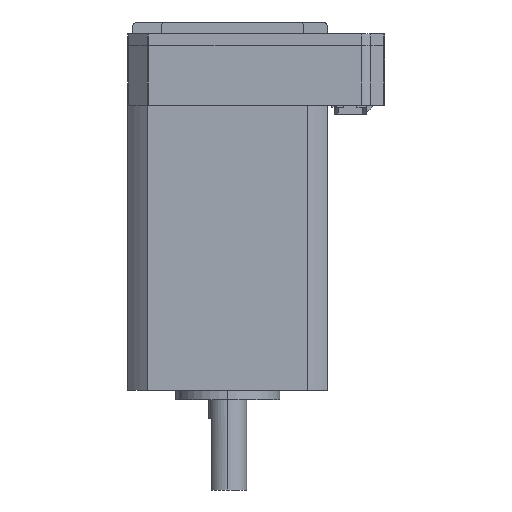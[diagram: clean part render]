
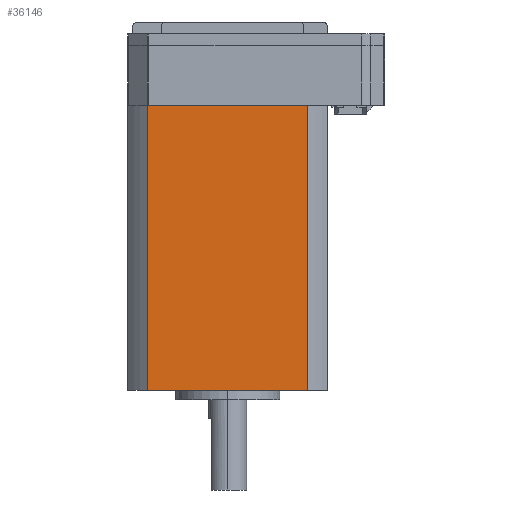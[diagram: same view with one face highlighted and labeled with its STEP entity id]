
A CAD part, left-side view. The second image highlights one B-rep face of the part: STEP entity #36146.
In plain terms, the highlighted planar face has unit normal (-1, 0, 0) as drawn and (1, 0, 0) by its records, which use the part's own axes.
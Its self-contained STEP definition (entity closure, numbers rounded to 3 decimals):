
#3176 = PLANE ( 'NONE',  #42179 ) ;
#5133 = CARTESIAN_POINT ( 'NONE',  ( 21.1, -16.846, 60. ) ) ;
#5267 = VERTEX_POINT ( 'NONE', #5133 ) ;
#7706 = CARTESIAN_POINT ( 'NONE',  ( 21.1, 16.846, 60. ) ) ;
#8871 = LINE ( 'NONE', #12387, #24021 ) ;
#9227 = CARTESIAN_POINT ( 'NONE',  ( 21.1, 16.846, 60. ) ) ;
#10188 = DIRECTION ( 'NONE',  ( -1., 0., 0. ) ) ;
#12387 = CARTESIAN_POINT ( 'NONE',  ( 21.1, 16.846, 60. ) ) ;
#14729 = EDGE_CURVE ( 'NONE', #5267, #16276, #39886, .T. ) ;
#14769 = CARTESIAN_POINT ( 'NONE',  ( 21.1, 16.846, 0. ) ) ;
#15386 = CARTESIAN_POINT ( 'NONE',  ( 21.1, -16.846, 60. ) ) ;
#15539 = EDGE_CURVE ( 'NONE', #16276, #23644, #8871, .T. ) ;
#15885 = EDGE_CURVE ( 'NONE', #5267, #35263, #43809, .T. ) ;
#16276 = VERTEX_POINT ( 'NONE', #9227 ) ;
#16431 = ORIENTED_EDGE ( 'NONE', *, *, #15885, .T. ) ;
#16833 = DIRECTION ( 'NONE',  ( 0., 0., -1. ) ) ;
#18455 = DIRECTION ( 'NONE',  ( 0., 0., -1. ) ) ;
#21157 = EDGE_CURVE ( 'NONE', #35263, #23644, #42480, .T. ) ;
#21983 = DIRECTION ( 'NONE',  ( 0., 1., 0. ) ) ;
#23644 = VERTEX_POINT ( 'NONE', #32576 ) ;
#23810 = ORIENTED_EDGE ( 'NONE', *, *, #14729, .F. ) ;
#24021 = VECTOR ( 'NONE', #16833, 1000. ) ;
#24495 = DIRECTION ( 'NONE',  ( 0., -1., 0. ) ) ;
#28489 = FACE_OUTER_BOUND ( 'NONE', #34349, .T. ) ;
#28962 = CARTESIAN_POINT ( 'NONE',  ( 21.1, 16.846, 60. ) ) ;
#30060 = VECTOR ( 'NONE', #18455, 1000. ) ;
#32576 = CARTESIAN_POINT ( 'NONE',  ( 21.1, 16.846, 0. ) ) ;
#34349 = EDGE_LOOP ( 'NONE', ( #44793, #40966, #23810, #16431 ) ) ;
#35263 = VERTEX_POINT ( 'NONE', #43218 ) ;
#36146 = ADVANCED_FACE ( 'NONE', ( #28489 ), #3176, .F. ) ;
#38453 = VECTOR ( 'NONE', #21983, 1000. ) ;
#39471 = VECTOR ( 'NONE', #43406, 1000. ) ;
#39886 = LINE ( 'NONE', #7706, #38453 ) ;
#40966 = ORIENTED_EDGE ( 'NONE', *, *, #15539, .F. ) ;
#42179 = AXIS2_PLACEMENT_3D ( 'NONE', #28962, #10188, #24495 ) ;
#42480 = LINE ( 'NONE', #14769, #39471 ) ;
#43218 = CARTESIAN_POINT ( 'NONE',  ( 21.1, -16.846, 0. ) ) ;
#43406 = DIRECTION ( 'NONE',  ( 0., 1., 0. ) ) ;
#43809 = LINE ( 'NONE', #15386, #30060 ) ;
#44793 = ORIENTED_EDGE ( 'NONE', *, *, #21157, .T. ) ;
